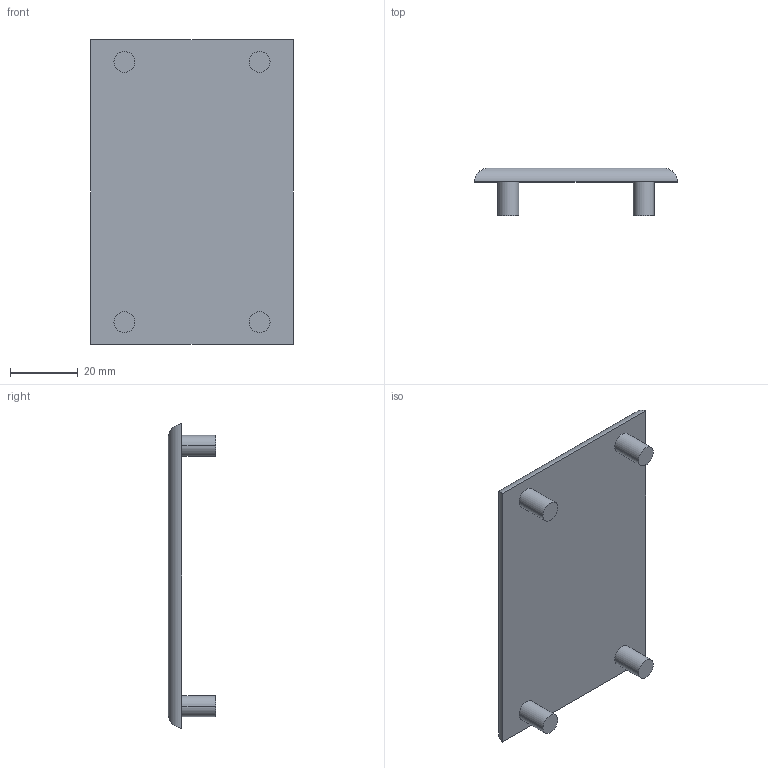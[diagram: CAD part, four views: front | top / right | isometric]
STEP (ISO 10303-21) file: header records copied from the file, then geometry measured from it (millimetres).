
FILE_DESCRIPTION((''),'2;1');
FILE_NAME('TAC609010','2002-12-27T',('Lipro doo'),('Lipro d.o.o.'),'PRO/ENGINEER BY PARAMETRIC TECHNOLOGY CORPORATION, 2001150','PRO/ENGINEER BY PARAMETRIC TECHNOLOGY CORPORATION, 2001150','');
FILE_SCHEMA(('CONFIG_CONTROL_DESIGN'));
Length unit declared in the file: millimetre
Products named in the file (1): TAC609010
Bounding box: 60 x 14 x 90 mm (x, y, z)
Volume: 21802.1 mm3; surface area: 12255 mm2
Topology: 1 solids, 1 shells, 18 faces, 36 edges, 24 vertices
Faces by surface type: cylinder 12, plane 6
Entity records: 554 total; most frequent: CARTESIAN_POINT 126, DIRECTION 84, ORIENTED_EDGE 72, EDGE_CURVE 36, AXIS2_PLACEMENT_3D 34, VERTEX_POINT 24, EDGE_LOOP 22, FACE_OUTER_BOUND 18
